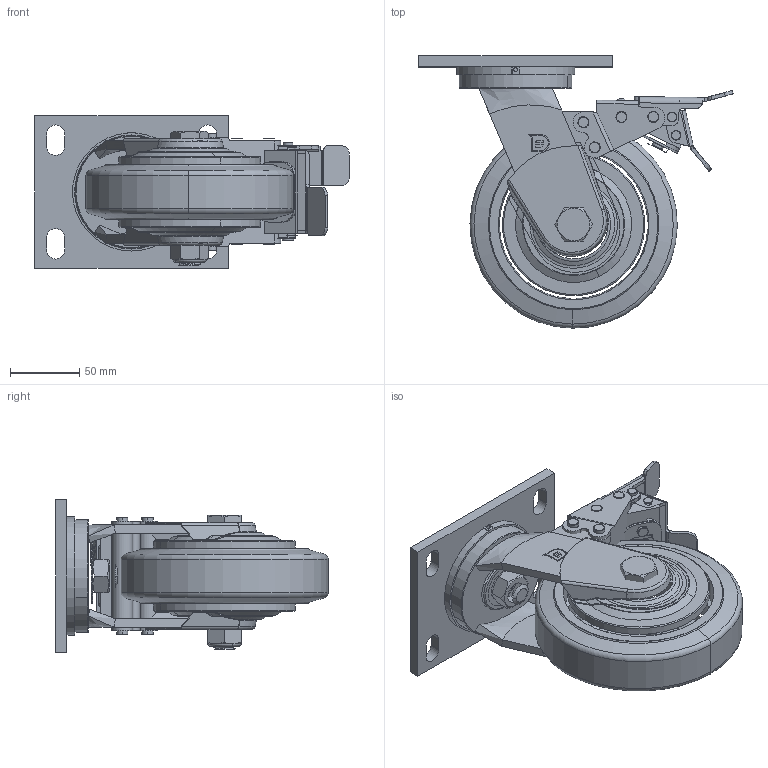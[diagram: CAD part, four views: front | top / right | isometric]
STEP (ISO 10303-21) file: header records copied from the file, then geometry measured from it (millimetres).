
FILE_DESCRIPTION((''),'2;1');
FILE_NAME('PRT0013','2025-04-29T10:39:16',('Administrator'),(''),'CREO PARAMETRIC BY PTC INC, 2022124','CREO PARAMETRIC BY PTC INC, 2022124','');
FILE_SCHEMA(('AP203_CONFIGURATION_CONTROLLED_3D_DESIGN_OF_MECHANICAL_PARTS_AND_ASSEMBLIES_MIM_LF { 1 0 10303 403 2 1 2 }'));
Length unit declared in the file: millimetre
Products named in the file (1): PRT0013
Bounding box: 227.45 x 196.99 x 110 mm (x, y, z)
Surface area: 181592.1 mm2 (no closed solid volume)
Topology: 0 solids, 60 shells, 361 faces, 1559 edges, 1237 vertices
Faces by surface type: plane 155, cylinder 98, torus 46, cone 36, bspline 25, extrusion 1
Entity records: 21079 total; most frequent: CARTESIAN_POINT 6270, DIRECTION 2442, ORIENTED_EDGE 2166, EDGE_CURVE 1559, VERTEX_POINT 1237, AXIS2_PLACEMENT_3D 851, VECTOR 737, LINE 736
